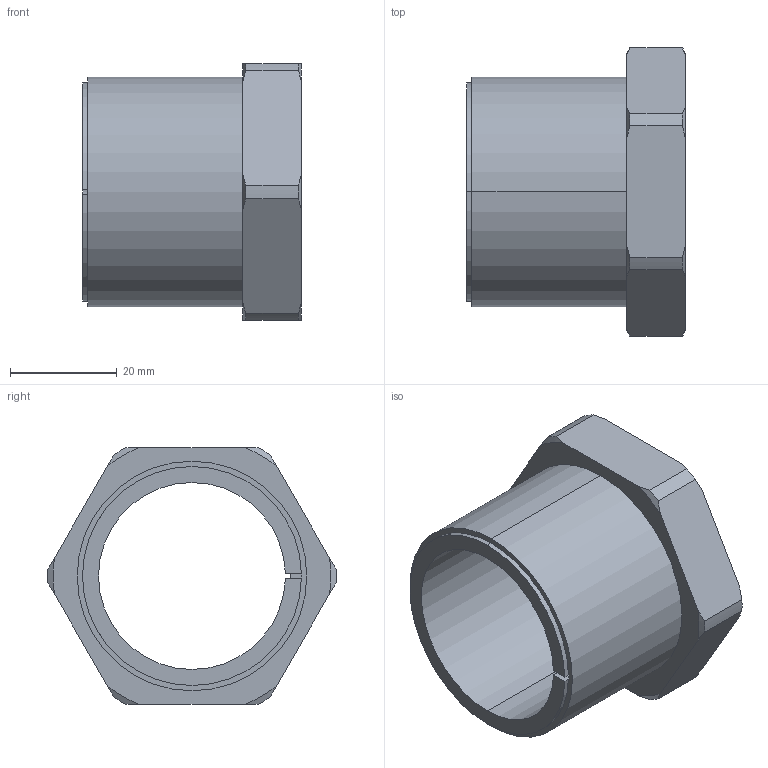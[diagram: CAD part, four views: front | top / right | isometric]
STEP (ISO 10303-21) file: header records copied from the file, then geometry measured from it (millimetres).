
FILE_DESCRIPTION (( 'STEP AP203' ), '1' );
FILE_NAME ('KBS 57 - 35 x 43.STEP', '2015-07-05T18:36:27', ( '' ), ( '' ), 'SwSTEP 2.0', 'SolidWorks 2010', '' );
FILE_SCHEMA (( 'CONFIG_CONTROL_DESIGN' ));
Length unit declared in the file: millimetre
Products named in the file (1): KBS 57 - 35 x 43
Bounding box: 41 x 53.99 x 48 mm (x, y, z)
Volume: 25567 mm3; surface area: 12817.1 mm2
Topology: 1 solids, 1 shells, 49 faces, 134 edges, 88 vertices
Faces by surface type: plane 19, cylinder 15, cone 15
Entity records: 1681 total; most frequent: CARTESIAN_POINT 356, ORIENTED_EDGE 268, DIRECTION 260, EDGE_CURVE 134, AXIS2_PLACEMENT_3D 102, VERTEX_POINT 88, LINE 56, VECTOR 56
